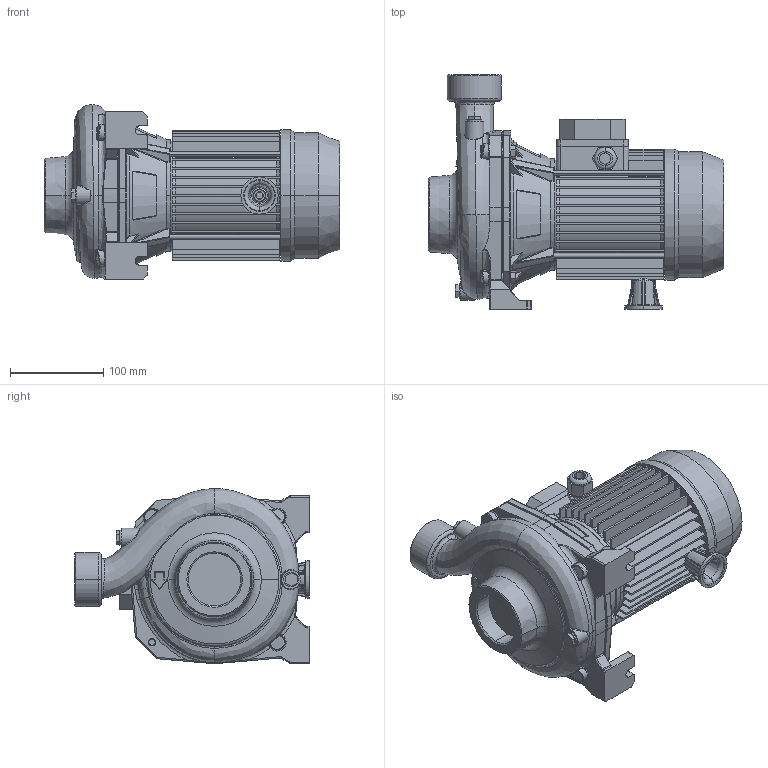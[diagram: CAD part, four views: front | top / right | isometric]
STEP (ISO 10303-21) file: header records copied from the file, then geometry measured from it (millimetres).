
FILE_DESCRIPTION((''),'2;1');
FILE_NAME('CMB_075T_IE3_ASM','2021-08-20T',('rosa'),('"Ebara Pumps Europe +39.444.706811"'),'PRO/ENGINEER BY PARAMETRIC TECHNOLOGY CORPORATION, 2017170','PRO/ENGINEER BY PARAMETRIC TECHNOLOGY CORPORATION, 2017170','');
FILE_SCHEMA(('AUTOMOTIVE_DESIGN { 1 0 10303 214 1 1 1 1 }'));
Length unit declared in the file: millimetre
Products named in the file (6): MEC_71; 80534; 38001; 20521; 72012; CMB_075T_IE3_ASM
Assembly tree (5 placements, depth 2):
  CMB_075T_IE3_ASM
    MEC_71
    80534
    38001
    20521
    72012
Bounding box: 316.8 x 251.5 x 187.58 mm (x, y, z)
Volume: 3849757.2 mm3; surface area: 539200.8 mm2
Topology: 5 solids, 11 shells, 1188 faces, 2857 edges, 1726 vertices
Faces by surface type: plane 450, cylinder 260, bspline 236, cone 126, torus 80, sphere 36
Entity records: 58289 total; most frequent: CARTESIAN_POINT 23224, ORIENTED_EDGE 5686, DIRECTION 5085, EDGE_CURVE 2851, PRESENTATION_STYLE_ASSIGNMENT 2158, STYLED_ITEM 2158, AXIS2_PLACEMENT_3D 1989, CURVE_STYLE 1932
